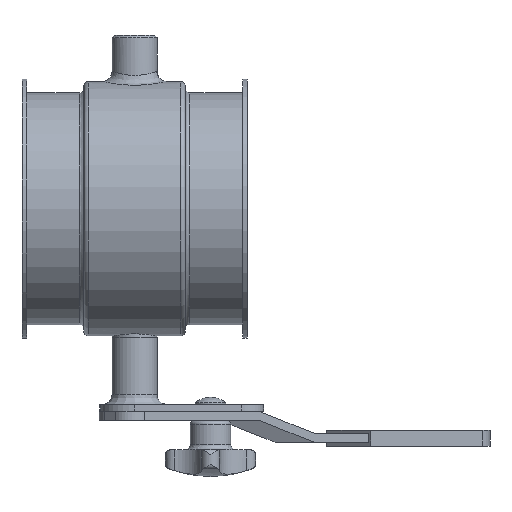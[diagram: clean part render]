
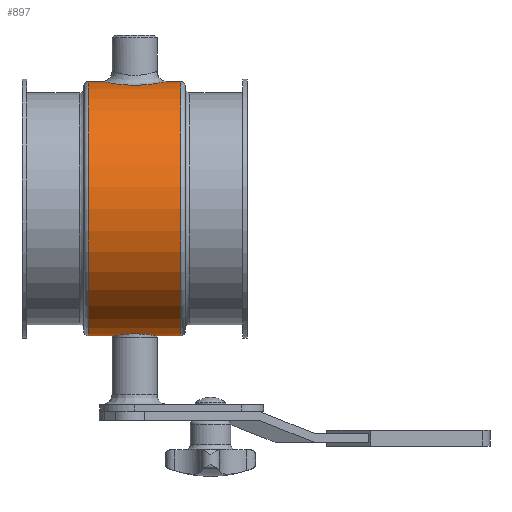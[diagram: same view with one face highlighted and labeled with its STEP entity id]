
A CAD part, left-side view. The second image highlights one B-rep face of the part: STEP entity #897.
In plain terms, the highlighted cylindrical face has radius 56.5 mm (diameter 113 mm), a full revolution.
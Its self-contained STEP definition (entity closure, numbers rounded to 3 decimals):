
#789=CARTESIAN_POINT('',(-64.93,50.041,54.881));
#790=VERTEX_POINT('',#789);
#800=CARTESIAN_POINT('',(-64.931,50.041,54.88));
#801=CARTESIAN_POINT('',(-64.931,50.04,54.88));
#802=CARTESIAN_POINT('',(-64.931,50.04,54.88));
#803=CARTESIAN_POINT('',(-64.931,50.039,54.88));
#804=CARTESIAN_POINT('',(-64.931,47.874,54.88));
#805=CARTESIAN_POINT('',(-64.012,43.543,55.117));
#806=CARTESIAN_POINT('',(-60.178,38.338,55.9));
#807=CARTESIAN_POINT('',(-54.635,35.431,56.524));
#808=CARTESIAN_POINT('',(-48.403,35.416,56.524));
#809=CARTESIAN_POINT('',(-42.851,38.322,55.907));
#810=CARTESIAN_POINT('',(-38.565,44.075,55.026));
#811=CARTESIAN_POINT('',(-37.61,50.828,54.762));
#812=CARTESIAN_POINT('',(-39.62,57.843,55.261));
#813=CARTESIAN_POINT('',(-43.401,62.236,56.006));
#814=CARTESIAN_POINT('',(-49.08,64.658,56.525));
#815=CARTESIAN_POINT('',(-54.6,64.662,56.524));
#816=CARTESIAN_POINT('',(-60.163,61.753,55.903));
#817=CARTESIAN_POINT('',(-64.003,56.573,55.119));
#818=CARTESIAN_POINT('',(-64.931,52.205,54.88));
#819=CARTESIAN_POINT('',(-64.931,50.041,54.88));
#820=B_SPLINE_CURVE_WITH_KNOTS('',3,(#800,#801,#802,#803,#804,#805,#806,#807,#808,#809,#810,#811,#812,#813,#814,#815,#816,#817,#818,#819),.UNSPECIFIED.,.T.,.U.,(4,3,1,1,1,1,1,1,1,1,1,1,1,1,1,4),(-6.041,-6.041,-5.609,-5.178,-4.746,-4.315,-3.883,-3.452,-2.877,-2.589,-2.014,-1.726,-1.294,-0.863,-0.431,0.),.UNSPECIFIED.);
#821=EDGE_CURVE('',#790,#790,#820,.T.);
#826=CARTESIAN_POINT('',(-51.5,50.041,0.0));
#827=DIRECTION('',(0.,-1.0,0.0));
#828=DIRECTION('',(1.0,0.0,0.0));
#829=AXIS2_PLACEMENT_3D('',#826,#827,#828);
#830=CYLINDRICAL_SURFACE('',#829,56.5);
#831=CARTESIAN_POINT('',(5.,70.541,0.0));
#832=VERTEX_POINT('',#831);
#833=CARTESIAN_POINT('',(-51.5,70.541,0.0));
#834=DIRECTION('',(0.0,-1.0,0.0));
#835=DIRECTION('',(1.0,0.0,0.0));
#836=AXIS2_PLACEMENT_3D('',#833,#834,#835);
#837=CIRCLE('',#836,56.5);
#838=EDGE_CURVE('',#832,#832,#837,.T.);
#839=ORIENTED_EDGE('',*,*,#838,.T.);
#840=EDGE_LOOP('',(#839));
#841=FACE_OUTER_BOUND('',#840,.T.);
#842=CARTESIAN_POINT('',(5.,29.541,0.0));
#843=VERTEX_POINT('',#842);
#844=CARTESIAN_POINT('',(-51.5,29.541,0.0));
#845=DIRECTION('',(0.0,-1.0,0.0));
#846=DIRECTION('',(1.0,0.0,0.0));
#847=AXIS2_PLACEMENT_3D('',#844,#845,#846);
#848=CIRCLE('',#847,56.5);
#849=EDGE_CURVE('',#843,#843,#848,.T.);
#850=ORIENTED_EDGE('',*,*,#849,.F.);
#851=EDGE_LOOP('',(#850));
#852=FACE_BOUND('',#851,.T.);
#853=CARTESIAN_POINT('',(-61.5,50.041,-55.608));
#854=VERTEX_POINT('',#853);
#855=CARTESIAN_POINT('',(-61.5,50.041,-55.608));
#856=CARTESIAN_POINT('',(-61.5,48.783,-55.608));
#857=CARTESIAN_POINT('',(-61.248,47.442,-55.655));
#858=CARTESIAN_POINT('',(-60.227,44.979,-55.824));
#859=CARTESIAN_POINT('',(-59.457,43.856,-55.944));
#860=CARTESIAN_POINT('',(-57.685,42.084,-56.168));
#861=CARTESIAN_POINT('',(-56.562,41.314,-56.286));
#862=CARTESIAN_POINT('',(-54.099,40.293,-56.454));
#863=CARTESIAN_POINT('',(-52.758,40.041,-56.5));
#864=CARTESIAN_POINT('',(-50.242,40.041,-56.5));
#865=CARTESIAN_POINT('',(-48.901,40.293,-56.454));
#866=CARTESIAN_POINT('',(-46.438,41.314,-56.286));
#867=CARTESIAN_POINT('',(-45.315,42.084,-56.168));
#868=CARTESIAN_POINT('',(-43.543,43.856,-55.944));
#869=CARTESIAN_POINT('',(-42.773,44.979,-55.824));
#870=CARTESIAN_POINT('',(-41.752,47.442,-55.655));
#871=CARTESIAN_POINT('',(-41.5,48.783,-55.608));
#872=CARTESIAN_POINT('',(-41.5,51.3,-55.608));
#873=CARTESIAN_POINT('',(-41.752,52.64,-55.655));
#874=CARTESIAN_POINT('',(-42.773,55.103,-55.824));
#875=CARTESIAN_POINT('',(-43.543,56.226,-55.944));
#876=CARTESIAN_POINT('',(-45.315,57.998,-56.168));
#877=CARTESIAN_POINT('',(-46.438,58.768,-56.286));
#878=CARTESIAN_POINT('',(-48.901,59.789,-56.454));
#879=CARTESIAN_POINT('',(-50.242,60.041,-56.5));
#880=CARTESIAN_POINT('',(-52.758,60.041,-56.5));
#881=CARTESIAN_POINT('',(-54.099,59.789,-56.454));
#882=CARTESIAN_POINT('',(-56.562,58.768,-56.286));
#883=CARTESIAN_POINT('',(-57.685,57.998,-56.168));
#884=CARTESIAN_POINT('',(-59.457,56.226,-55.944));
#885=CARTESIAN_POINT('',(-60.227,55.103,-55.824));
#886=CARTESIAN_POINT('',(-61.248,52.64,-55.655));
#887=CARTESIAN_POINT('',(-61.5,51.3,-55.608));
#888=CARTESIAN_POINT('',(-61.5,50.041,-55.608));
#889=B_SPLINE_CURVE_WITH_KNOTS('',3,(#855,#856,#857,#858,#859,#860,#861,#862,#863,#864,#865,#866,#867,#868,#869,#870,#871,#872,#873,#874,#875,#876,#877,#878,#879,#880,#881,#882,#883,#884,#885,#886,#887,#888),.UNSPECIFIED.,.T.,.U.,(4,2,2,2,2,2,2,2,2,2,2,2,2,2,2,2,4),(0.0,0.378,0.755,1.133,1.51,1.888,2.265,2.643,3.02,3.398,3.775,4.153,4.531,4.908,5.286,5.663,6.041),.UNSPECIFIED.);
#890=EDGE_CURVE('',#854,#854,#889,.T.);
#891=ORIENTED_EDGE('',*,*,#890,.T.);
#892=EDGE_LOOP('',(#891));
#893=FACE_BOUND('',#892,.T.);
#894=ORIENTED_EDGE('',*,*,#821,.F.);
#895=EDGE_LOOP('',(#894));
#896=FACE_BOUND('',#895,.T.);
#897=ADVANCED_FACE('',(#841,#852,#893,#896),#830,.T.);
